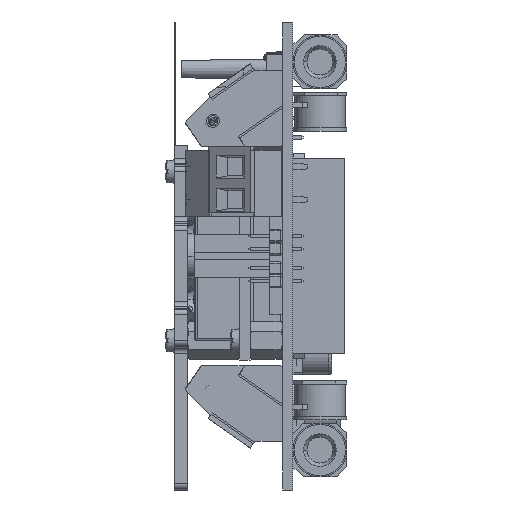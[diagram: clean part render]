
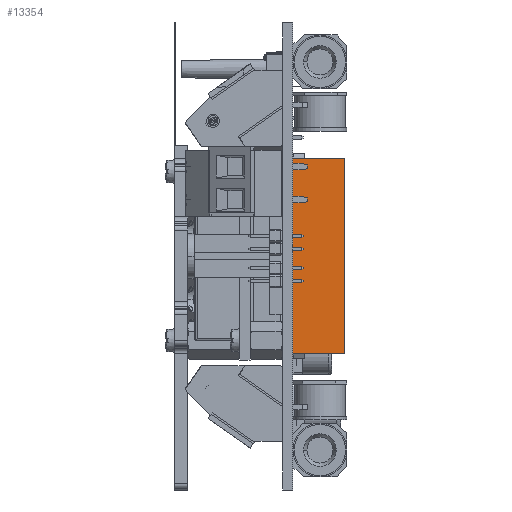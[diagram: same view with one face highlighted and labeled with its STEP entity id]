
A CAD part, left-side view. The second image highlights one B-rep face of the part: STEP entity #13354.
In plain terms, the highlighted planar face has unit normal (-1, 0, 0).
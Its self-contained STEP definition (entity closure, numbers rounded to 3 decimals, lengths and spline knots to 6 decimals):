
#13354=ADVANCED_FACE('2184:1016',(#23863),#23864,.T.);
#23863=FACE_OUTER_BOUND('',#39105,.T.);
#23864=PLANE('',#39106);
#39105=EDGE_LOOP('',(#57472,#57473,#57474,#57475));
#39106=AXIS2_PLACEMENT_3D('',#57476,#57477,#57478);
#57472=ORIENTED_EDGE('',*,*,#71711,.T.);
#57473=ORIENTED_EDGE('',*,*,#71712,.F.);
#57474=ORIENTED_EDGE('',*,*,#71713,.T.);
#57475=ORIENTED_EDGE('',*,*,#71714,.T.);
#57476=CARTESIAN_POINT('',(-0.0535,0.0331,0.007));
#57477=DIRECTION('',(-1.0,0.0,0.0));
#57478=DIRECTION('',(0.0,0.0,-1.0));
#71711=EDGE_CURVE('2184:1034',#87634,#87635,#87636,.T.);
#71712=EDGE_CURVE('2184:1037',#87637,#87635,#87638,.T.);
#71713=EDGE_CURVE('2184:1040',#87637,#87639,#87640,.T.);
#71714=EDGE_CURVE('2184:1043',#87639,#87634,#87641,.T.);
#87634=VERTEX_POINT('',#104190);
#87635=VERTEX_POINT('',#104191);
#87636=LINE('',#104192,#104193);
#87637=VERTEX_POINT('',#104194);
#87638=LINE('',#104195,#104196);
#87639=VERTEX_POINT('',#104197);
#87640=LINE('',#104198,#104199);
#87641=LINE('',#104200,#104201);
#104190=CARTESIAN_POINT('',(-0.0535,0.0251,-0.008));
#104191=CARTESIAN_POINT('',(-0.0535,0.0251,0.022));
#104192=CARTESIAN_POINT('',(-0.0535,0.0251,0.022));
#104193=VECTOR('',#111405,1.0);
#104194=CARTESIAN_POINT('',(-0.0535,0.0331,0.022));
#104195=CARTESIAN_POINT('',(-0.0535,0.0331,0.022));
#104196=VECTOR('',#111406,1.0);
#104197=CARTESIAN_POINT('',(-0.0535,0.0331,-0.008));
#104198=CARTESIAN_POINT('',(-0.0535,0.0331,0.022));
#104199=VECTOR('',#111407,1.0);
#104200=CARTESIAN_POINT('',(-0.0535,0.0331,-0.008));
#104201=VECTOR('',#111408,1.0);
#111405=DIRECTION('',(0.0,0.0,1.0));
#111406=DIRECTION('',(-0.0,-1.0,0.0));
#111407=DIRECTION('',(0.0,0.0,-1.0));
#111408=DIRECTION('',(-0.0,-1.0,0.0));
